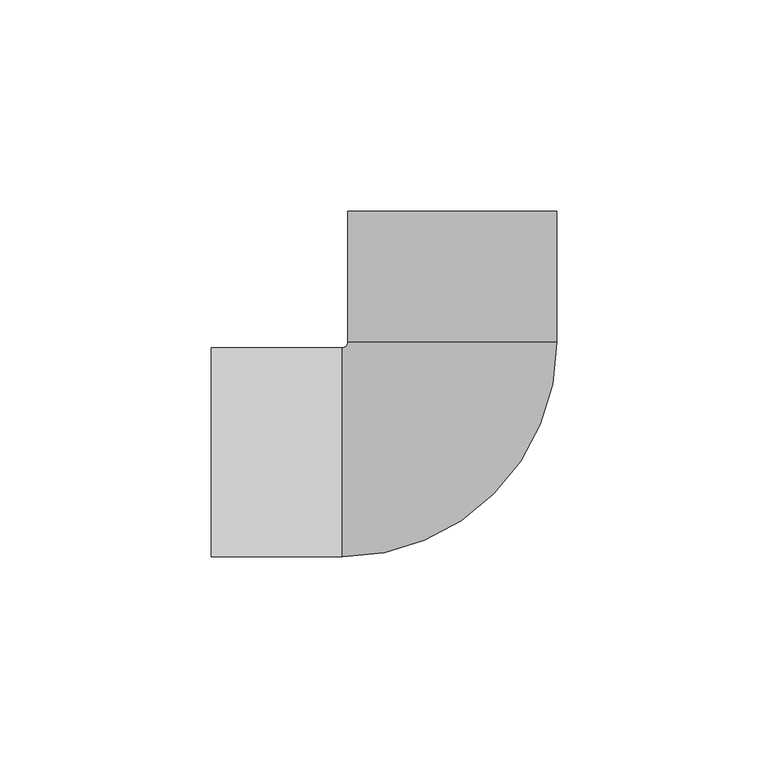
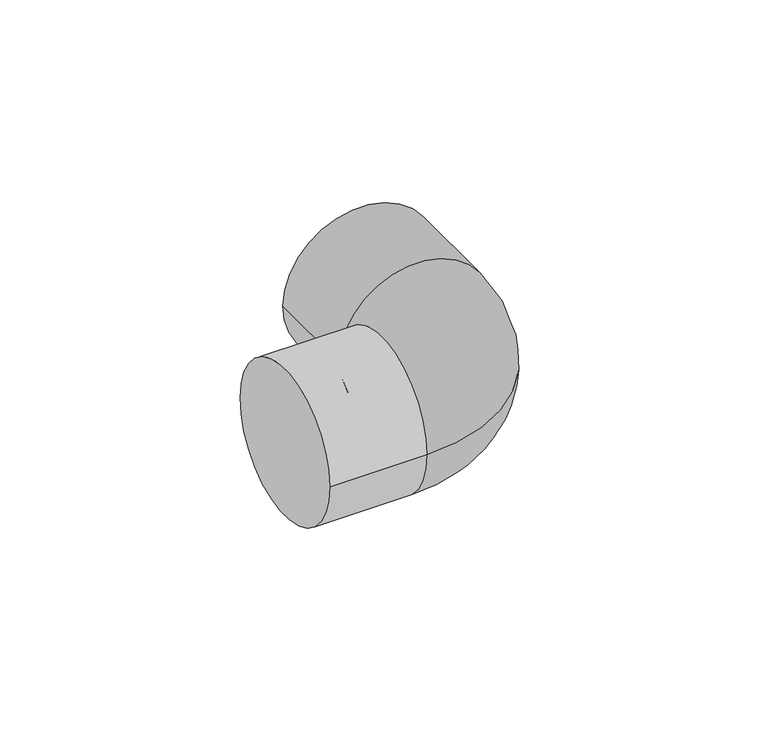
"""IFC4 building model written with IfcOpenShell, lengths in millimetres: pipe fitting geometry, 01051001 : Codos 90º."""

from ifc_helpers import new_model, si_unit, point, frame, origin, place, context, project, spatial, circle_curve, ellipse_curve, trimmed, source, transform, mapped, element, save
from ifc_brep_helpers import plane_surface, cylinder_surface, revolved_surface, advanced_brep


def pipe_fitting_3df17a08(model_context):
    return source(origin(), model_context, "Body", "AdvancedBrep", [
        advanced_brep(
        [(-26.0, -24.7, 0.0), (24.7, 26.0, 0.0), (-24.7, 26.0, 0.0), (-26.0, 24.7, 0.0), (-24.7, 57.0, 0.0), (24.7, 57.0, 0.0), (-57.0, 24.7, 0.0), (-57.0, -24.7, 0.0)],
        [
            (0, 1, circle_curve(frame((-26.0, 26.0, 0.0), z_axis=(0.0, 0.0, 1.0), x_axis=(1.0, 0.0, 0.0)), 50.7)),
            (1, 2, circle_curve(frame((0.0, 26.0, 0.0), z_axis=(0.0, -1.0, 0.0), x_axis=(1.0, 0.0, 0.0)), 24.7)),
            (2, 3, circle_curve(frame((-26.0, 26.0, 0.0), z_axis=(0.0, 0.0, -1.0), x_axis=(1.0, 0.0, 0.0)), 1.3)),
            (3, 0, circle_curve(frame((-26.0, 0.0, 0.0), z_axis=(1.0, 0.0, 0.0), x_axis=(0.0, -1.0, 0.0)), 24.7)),
            (2, 1, circle_curve(frame((0.0, 26.0, 0.0), z_axis=(0.0, -1.0, 0.0), x_axis=(1.0, 0.0, 0.0)), 24.7)),
            (0, 3, circle_curve(frame((-26.0, 0.0, 0.0), z_axis=(1.0, 0.0, 0.0), x_axis=(0.0, -1.0, 0.0)), 24.7)),
            (4, 5, circle_curve(frame((0.0, 57.0, 0.0), z_axis=(0.0, 1.0, 0.0), x_axis=(1.0, 0.0, 0.0)), 24.7)),
            (5, 4, circle_curve(frame((0.0, 57.0, 0.0), z_axis=(0.0, 1.0, 0.0), x_axis=(1.0, 0.0, 0.0)), 24.7)),
            (4, 2),
            (1, 5),
            (6, 7, circle_curve(frame((-57.0, 0.0, 0.0), z_axis=(-1.0, 0.0, 0.0), x_axis=(0.0, -1.0, 0.0)), 24.7)),
            (7, 6, circle_curve(frame((-57.0, 0.0, 0.0), z_axis=(-1.0, 0.0, 0.0), x_axis=(0.0, -1.0, 0.0)), 24.7)),
            (3, 6),
            (7, 0),
        ],
        [
            revolved_surface(trimmed(ellipse_curve(frame((0.0, 26.0, 0.0), z_axis=(0.0, 1.0, 0.0), x_axis=(1.0, 0.0, 0.0)), 24.7, 24.7), [point((-24.7, 26.0, 0.0))], [point((24.7, 26.0, 0.0))], True, "CARTESIAN"), (-26.0, 26.0, 0.0), (0.0, 0.0, -1.0)),
            revolved_surface(trimmed(ellipse_curve(frame((0.0, 26.0, 0.0), z_axis=(0.0, 1.0, 0.0), x_axis=(1.0, 0.0, 0.0)), 24.7, 24.7), [point((24.7, 26.0, 0.0))], [point((-24.7, 26.0, 0.0))], True, "CARTESIAN"), (-26.0, 26.0, 0.0), (0.0, 0.0, -1.0)),
            plane_surface(frame((0.0, 57.0, 0.0), z_axis=(0.0, 1.0, 0.0), x_axis=(0.0, 0.0, 1.0))),
            cylinder_surface(frame((0.0, 57.0, 0.0), z_axis=(0.0, 1.0, 0.0), x_axis=(1.0, 0.0, 0.0)), 24.7),
            plane_surface(frame((-57.0, 0.0, 0.0), z_axis=(-1.0, 0.0, 0.0), x_axis=(0.0, 0.0, 1.0))),
            cylinder_surface(frame((-26.0, 0.0, 0.0), z_axis=(1.0, 0.0, 0.0), x_axis=(0.0, -1.0, 0.0)), 24.7),
        ],
        [
            (0, [[1, 2, 3, 4]]),
            (1, [[-3, 5, -1, 6]]),
            (2, [[7, 8]]),
            (3, [[-7, 9, -2, 10]]),
            (3, [[-8, -10, -5, -9]]),
            (4, [[11, 12]]),
            (5, [[-4, 13, -12, 14]]),
            (5, [[-6, -14, -11, -13]]),
        ],
    ),
    ])


if __name__ == "__main__":
    model = new_model("IFC4")
    model_context = context("Model", 3, world=origin())
    ifc_project = project(units=[si_unit("LENGTHUNIT", "METRE", prefix="MILLI")], contexts=[model_context])
    site = spatial("IfcSite", under=ifc_project)
    building = spatial("IfcBuilding", under=site)
    placement = place(None, origin())
    pipe_fitting_shape = pipe_fitting_3df17a08(model_context)
    element("IfcPipeFitting", 1, ObjectType="01051001 : Codos 90º", at=placement, inside=building, context=model_context, shape_type="MappedRepresentation", body=[
        mapped(pipe_fitting_shape, transform((0.0, 0.0, 0.0), x_axis=(1.0, 0.0, 0.0), y_axis=(0.0, 1.0, 0.0), z_axis=(0.0, 0.0, 1.0))),
    ])
    save(model, "model.ifc")
